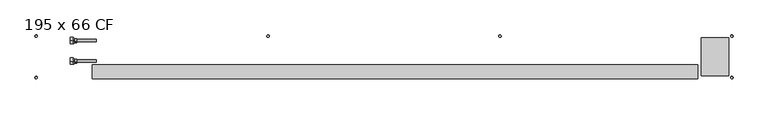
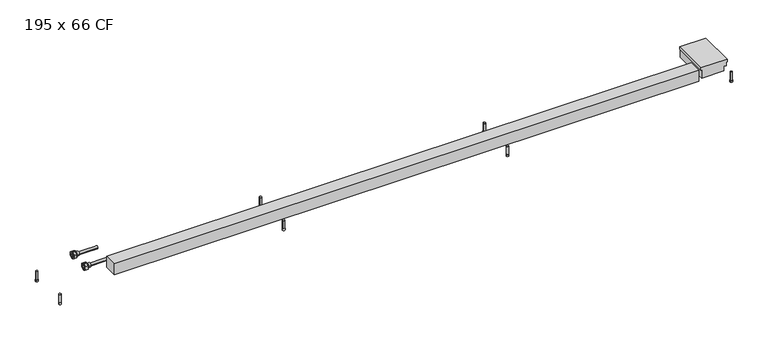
"""IFC4 building model written with IfcOpenShell, lengths in millimetres: proxy geometry, Mohlenhof_Внутрипольный конвектор_QSKM CF : 195 x 66 CF."""

import ifcopenshell
import ifcopenshell.guid

model = None  # the IFC model being written
_history = None  # IfcOwnerHistory: only IFC2X3 demands one
_inside = {}  # id of a spatial element -> (the spatial element, [elements in it])
_under = {}  # id of a project, library or spatial element -> (it, [spatial elements below it])
_declared = {}  # id of a project -> (the project, [libraries it declares])
_typed = {}  # id of a type object -> (the type object, [elements of that type])
_made_of = {}  # id of a material, layer set ... -> (it, [elements and type objects made of it])


def new_model(schema):
    """Start an empty IFC model of exactly this schema.

    Asked for "IFC4X3", IfcOpenShell would pick the latest addendum, in which some entities
    have other attributes; the version numbers below select the first issue.
    IFC2X3 requires an IfcOwnerHistory on every rooted entity: one is made here for all.
    """
    global model, _history
    if schema == "IFC4X3":
        model = ifcopenshell.file(schema_version=(4, 3, 0, 0))
    else:
        model = ifcopenshell.file(schema=schema)
    _inside.clear()
    _under.clear()
    _declared.clear()
    _typed.clear()
    _made_of.clear()
    _history = None
    if model.schema == "IFC2X3":
        org = make("IfcOrganization", Name="unknown")
        user = make(
            "IfcPersonAndOrganization",
            ThePerson=make("IfcPerson", FamilyName="unknown"),
            TheOrganization=org,
        )
        app = make(
            "IfcApplication",
            ApplicationDeveloper=org,
            Version="unknown",
            ApplicationFullName="unknown",
            ApplicationIdentifier="unknown",
        )
        _history = make(
            "IfcOwnerHistory",
            OwningUser=user,
            OwningApplication=app,
            ChangeAction="ADDED",
            CreationDate=0,
        )
    return model


def make(cls, **values):
    """One entity of the class cls with the attributes given. An attribute that is None is left unset."""
    return model.create_entity(
        cls, **{name: value for name, value in values.items() if value is not None}
    )


def rooted(cls, **values):
    """An entity with a GlobalId (a new one), such as an element, a storey or a relation."""
    return make(cls, GlobalId=ifcopenshell.guid.new(), OwnerHistory=_history, **values)


def si_unit(unit_type, name, prefix=None):
    """IfcSIUnit, for example si_unit("LENGTHUNIT", "METRE", prefix="MILLI")."""
    return make("IfcSIUnit", UnitType=unit_type, Prefix=prefix, Name=name)


def assignment(units):
    """IfcUnitAssignment: the units of a project."""
    return None if units is None else make("IfcUnitAssignment", Units=units)


def point(xyz):
    """IfcCartesianPoint."""
    return None if xyz is None else make("IfcCartesianPoint", Coordinates=xyz)


def direction(xyz):
    """IfcDirection."""
    return None if xyz is None else make("IfcDirection", DirectionRatios=xyz)


def frame(location, z_axis=None, x_axis=None):
    """IfcAxis2Placement3D, a coordinate frame: its origin and axes. An axis left out is left unset."""
    return make(
        "IfcAxis2Placement3D",
        Location=point(location),
        Axis=direction(z_axis),
        RefDirection=direction(x_axis),
    )


def frame_2d(location, x_axis=None):
    """IfcAxis2Placement2D, a coordinate frame in the plane: its origin and x axis."""
    return make(
        "IfcAxis2Placement2D", Location=point(location), RefDirection=direction(x_axis)
    )


def origin():
    """The frame at (0, 0, 0) with its axes left unset."""
    return frame((0.0, 0.0, 0.0))


def place(relative_to, where):
    """IfcLocalPlacement: puts the frame where relative to a parent placement (None: the world)."""
    return make(
        "IfcLocalPlacement", PlacementRelTo=relative_to, RelativePlacement=where
    )


def context(
    kind, dimensions, precision=None, world=None, true_north=None, identifier=None
):
    """IfcGeometricRepresentationContext, for example the 3D "Model" context."""
    return make(
        "IfcGeometricRepresentationContext",
        ContextIdentifier=identifier,
        ContextType=kind,
        CoordinateSpaceDimension=dimensions,
        Precision=precision,
        WorldCoordinateSystem=world,
        TrueNorth=true_north,
    )


def project(units=None, contexts=None):
    """IfcProject with its units and contexts."""
    return rooted(
        "IfcProject",
        Name="project",
        RepresentationContexts=contexts,
        UnitsInContext=assignment(units),
    )


def spatial(cls, under=None, at=None, **own):
    """A site, building, storey or space (cls), placed at a placement, below another one or the project."""
    s = rooted(cls, ObjectPlacement=at, **own)
    if under is not None:
        _under.setdefault(under.id(), (under, []))[1].append(s)
    return s


def polyline(points):
    """IfcPolyline through the points."""
    return make("IfcPolyline", Points=[point(p) for p in points])


def circle_curve(where, radius):
    """IfcCircle in the frame where."""
    return make("IfcCircle", Position=where, Radius=radius)


def trimmed(basis, trim1, trim2, sense, master):
    """IfcTrimmedCurve: the piece of a basis curve between two trims."""
    return make(
        "IfcTrimmedCurve",
        BasisCurve=basis,
        Trim1=trim1,
        Trim2=trim2,
        SenseAgreement=sense,
        MasterRepresentation=master,
    )


def segment(curve, same_sense, transition):
    """IfcCompositeCurveSegment."""
    return make(
        "IfcCompositeCurveSegment",
        Transition=transition,
        SameSense=same_sense,
        ParentCurve=curve,
    )


def composite_curve(segments, self_intersect=None):
    """IfcCompositeCurve: segments joined end to end."""
    return make("IfcCompositeCurve", Segments=segments, SelfIntersect=self_intersect)


def outline(outer, holes=None, kind="AREA"):
    """IfcArbitraryClosedProfileDef: a profile drawn as a closed curve; with holes, ...WithVoids."""
    if holes is None:
        return make("IfcArbitraryClosedProfileDef", ProfileType=kind, OuterCurve=outer)
    return make(
        "IfcArbitraryProfileDefWithVoids",
        ProfileType=kind,
        OuterCurve=outer,
        InnerCurves=holes,
    )


def extrude(swept, where, along, depth):
    """IfcExtrudedAreaSolid: the profile swept, set in the frame where, extruded along a direction by depth."""
    return make(
        "IfcExtrudedAreaSolid",
        SweptArea=swept,
        Position=where,
        ExtrudedDirection=direction(along),
        Depth=depth,
    )


def shape(context_of_items, identifier, shape_type, items):
    """IfcShapeRepresentation: the items that make up one representation, for example the "Body"."""
    return make(
        "IfcShapeRepresentation",
        ContextOfItems=context_of_items,
        RepresentationIdentifier=identifier,
        RepresentationType=shape_type,
        Items=items,
    )


def source(mapping_origin, context_of_items, identifier, shape_type, items):
    """IfcRepresentationMap: a shape defined once, which mapped items show again and again."""
    return make(
        "IfcRepresentationMap",
        MappingOrigin=mapping_origin,
        MappedRepresentation=shape(context_of_items, identifier, shape_type, items),
    )


def transform(
    local_origin,
    x_axis=None,
    y_axis=None,
    z_axis=None,
    scale=None,
    scale2=None,
    scale3=None,
    uniform=True,
):
    """IfcCartesianTransformationOperator3D, or its non-uniform kind. x_axis, y_axis, z_axis: its Axis1, 2, 3."""
    if uniform:
        return make(
            "IfcCartesianTransformationOperator3D",
            Axis1=direction(x_axis),
            Axis2=direction(y_axis),
            LocalOrigin=point(local_origin),
            Scale=scale,
            Axis3=direction(z_axis),
        )
    return make(
        "IfcCartesianTransformationOperator3DnonUniform",
        Axis1=direction(x_axis),
        Axis2=direction(y_axis),
        LocalOrigin=point(local_origin),
        Scale=scale,
        Axis3=direction(z_axis),
        Scale2=scale2,
        Scale3=scale3,
    )


def mapped(mapping_source, mapping_target):
    """IfcMappedItem: shows the shape of a source again, moved by a transform."""
    return make(
        "IfcMappedItem", MappingSource=mapping_source, MappingTarget=mapping_target
    )


def made_of(thing, what):
    """Note that an element or type object is made of a material, layer set ...; save() writes the relation."""
    if what is not None:
        _made_of.setdefault(what.id(), (what, []))[1].append(thing)
    return thing


def element(
    cls,
    number,
    at=None,
    inside=None,
    cuts=None,
    type_object=None,
    material=None,
    context=None,
    identifier="Body",
    shape_type=None,
    held_by="IfcProductDefinitionShape",
    body=None,
    shapes=None,
    **own,
):
    """One element of the class cls, such as IfcWall. Its Tag is "e" and its number.

    at: its placement. inside: the storey or other place that contains it. cuts: it is an
    opening in that element (IfcRelVoidsElement). A single representation is given by context,
    identifier, shape_type and body (its items); several are given by shapes. held_by: the class
    of the entity that holds the representations. save() writes the other relations.
    """
    e = rooted(cls, Tag="e%d" % number, ObjectPlacement=at, **own)
    if body is not None:
        shapes = [shape(context, identifier, shape_type, body)]
    if shapes is not None:
        e.Representation = make(held_by, Representations=shapes)
    if inside is not None:
        _inside.setdefault(inside.id(), (inside, []))[1].append(e)
    if cuts is not None:
        rooted(
            "IfcRelVoidsElement", RelatingBuildingElement=cuts, RelatedOpeningElement=e
        )
    if type_object is not None:
        _typed.setdefault(type_object.id(), (type_object, []))[1].append(e)
    return made_of(e, material)


def aggregate(whole, parts):
    """IfcRelAggregates: a whole, such as a stair, and the parts it consists of."""
    return rooted("IfcRelAggregates", RelatingObject=whole, RelatedObjects=parts)


def save(model, path):
    """Write the relations noted so far, then the file.

    IfcRelAggregates (storeys below a building ...), IfcRelContainedInSpatialStructure (elements
    in a storey), IfcRelDefinesByType, IfcRelAssociatesMaterial and IfcRelDeclares: one each for
    every whole, place, type object, material and project.
    """
    for whole, parts in _under.values():
        aggregate(whole, parts)
    for where, things in _inside.values():
        rooted(
            "IfcRelContainedInSpatialStructure",
            RelatedElements=things,
            RelatingStructure=where,
        )
    for kind, things in _typed.values():
        rooted("IfcRelDefinesByType", RelatedObjects=things, RelatingType=kind)
    for what, things in _made_of.values():
        rooted("IfcRelAssociatesMaterial", RelatedObjects=things, RelatingMaterial=what)
    for by, libraries in _declared.values():
        rooted("IfcRelDeclares", RelatingContext=by, RelatedDefinitions=libraries)
    model.write(path)


def plane_surface(at):
    """IfcPlane: the flat surface through the origin of the frame at, square to its z axis."""
    return make("IfcPlane", Position=at)


def cylinder_surface(at, radius):
    """IfcCylindricalSurface: all points at the distance radius from the z axis of the frame at."""
    return make("IfcCylindricalSurface", Position=at, Radius=radius)


def revolved_surface(curve, axis_point, axis_direction):
    """IfcSurfaceOfRevolution: the curve turned about the line through axis_point along axis_direction."""
    return make(
        "IfcSurfaceOfRevolution",
        SweptCurve=make("IfcArbitraryOpenProfileDef", ProfileType="CURVE", Curve=curve),
        AxisPosition=make("IfcAxis1Placement", Location=point(axis_point), Axis=direction(axis_direction)),
    )


def advanced_brep(points, edges, surfaces, faces):
    """IfcAdvancedBrep: a solid bounded by faces that lie on surfaces and meet in shared edges.

    An edge is (start, end): straight between two places in points (the first is 0);
    or (start, end, curve); or (start, end, curve, False) where it runs against its curve.
    A face is (place in surfaces, loops), or (place, loops, False) where it looks against
    its surface's normal. A loop lists edges by number (the first is 1), with a minus sign
    where the edge is run from its end to its start. The first loop is the outer one.
    """
    corners = [point(p) for p in points]
    vertices = [make("IfcVertexPoint", VertexGeometry=c) for c in corners]
    made = []
    for start, end, *more in edges:
        made.append(
            make(
                "IfcEdgeCurve",
                EdgeStart=vertices[start],
                EdgeEnd=vertices[end],
                EdgeGeometry=more[0] if more else make("IfcPolyline", Points=[corners[start], corners[end]]),
                SameSense=more[1] if len(more) > 1 else True,
            )
        )
    hull = []
    for where, loops, *sense in faces:
        bounds = []
        for j, loop in enumerate(loops):
            ring = [make("IfcOrientedEdge", EdgeElement=made[abs(k) - 1], Orientation=k > 0) for k in loop]
            bounds.append(
                make(
                    "IfcFaceOuterBound" if j == 0 else "IfcFaceBound",
                    Bound=make("IfcEdgeLoop", EdgeList=ring),
                    Orientation=True,
                )
            )
        hull.append(make("IfcAdvancedFace", Bounds=bounds, FaceSurface=surfaces[where], SameSense=sense[0] if sense else True))
    return make("IfcAdvancedBrep", Outer=make("IfcClosedShell", CfsFaces=hull))


def proxy_195_x_66_cf_dcdc219b(model_context):
    return source(origin(), model_context, "Body", "SolidModel", [
        extrude(outline(composite_curve([segment(trimmed(circle_curve(frame_2d((-425.0, -273.5)), 4.5), [point((-429.5, -273.5))], [point((-420.5, -273.5))], False, "CARTESIAN"), True, "CONTINUOUS"), segment(trimmed(circle_curve(frame_2d((-425.0, -273.5)), 4.5), [point((-420.5, -273.5))], [point((-429.5, -273.5))], False, "CARTESIAN"), True, "CONTINUOUS")], self_intersect=False)), frame((0.0, 0.0, -110.0), z_axis=(0.0, 0.0, 1.0), x_axis=(1.0, 0.0, 0.0)), (0.0, 0.0, 1.0), 7.0),
        extrude(outline(composite_curve([segment(trimmed(circle_curve(frame_2d((-425.0, -273.5)), 4.0), [point((-429.0, -273.5))], [point((-421.0, -273.5))], False, "CARTESIAN"), True, "CONTINUOUS"), segment(trimmed(circle_curve(frame_2d((-425.0, -273.5)), 4.0), [point((-421.0, -273.5))], [point((-429.0, -273.5))], False, "CARTESIAN"), True, "CONTINUOUS")], self_intersect=False)), frame((0.0, 0.0, -103.0), z_axis=(0.0, 0.0, 1.0), x_axis=(1.0, 0.0, 0.0)), (0.0, 0.0, 1.0), 32.5),
        extrude(outline(composite_curve([segment(trimmed(circle_curve(frame_2d((425.0, -273.5)), 4.5), [point((420.5, -273.5))], [point((429.5, -273.5))], False, "CARTESIAN"), True, "CONTINUOUS"), segment(trimmed(circle_curve(frame_2d((425.0, -273.5)), 4.5), [point((429.5, -273.5))], [point((420.5, -273.5))], False, "CARTESIAN"), True, "CONTINUOUS")], self_intersect=False)), frame((0.0, 0.0, -110.0), z_axis=(0.0, 0.0, 1.0), x_axis=(1.0, 0.0, 0.0)), (0.0, 0.0, 1.0), 7.0),
        extrude(outline(composite_curve([segment(trimmed(circle_curve(frame_2d((425.0, -273.5)), 4.0), [point((421.0, -273.5))], [point((429.0, -273.5))], False, "CARTESIAN"), True, "CONTINUOUS"), segment(trimmed(circle_curve(frame_2d((425.0, -273.5)), 4.0), [point((429.0, -273.5))], [point((421.0, -273.5))], False, "CARTESIAN"), True, "CONTINUOUS")], self_intersect=False)), frame((0.0, 0.0, -103.0), z_axis=(0.0, 0.0, 1.0), x_axis=(1.0, 0.0, 0.0)), (0.0, 0.0, 1.0), 32.5),
        extrude(outline(composite_curve([segment(trimmed(circle_curve(frame_2d((-425.0, -121.5)), 4.5), [point((-429.5, -121.5))], [point((-420.5, -121.5))], False, "CARTESIAN"), True, "CONTINUOUS"), segment(trimmed(circle_curve(frame_2d((-425.0, -121.5)), 4.5), [point((-420.5, -121.5))], [point((-429.5, -121.5))], False, "CARTESIAN"), True, "CONTINUOUS")], self_intersect=False)), frame((0.0, 0.0, -110.0), z_axis=(0.0, 0.0, 1.0), x_axis=(1.0, 0.0, 0.0)), (0.0, 0.0, 1.0), 7.0),
        extrude(outline(composite_curve([segment(trimmed(circle_curve(frame_2d((-425.0, -121.5)), 4.0), [point((-429.0, -121.5))], [point((-421.0, -121.5))], False, "CARTESIAN"), True, "CONTINUOUS"), segment(trimmed(circle_curve(frame_2d((-425.0, -121.5)), 4.0), [point((-421.0, -121.5))], [point((-429.0, -121.5))], False, "CARTESIAN"), True, "CONTINUOUS")], self_intersect=False)), frame((0.0, 0.0, -103.0), z_axis=(0.0, 0.0, 1.0), x_axis=(1.0, 0.0, 0.0)), (0.0, 0.0, 1.0), 32.5),
        extrude(outline(composite_curve([segment(trimmed(circle_curve(frame_2d((425.0, -121.5)), 4.5), [point((420.5, -121.5))], [point((429.5, -121.5))], False, "CARTESIAN"), True, "CONTINUOUS"), segment(trimmed(circle_curve(frame_2d((425.0, -121.5)), 4.5), [point((429.5, -121.5))], [point((420.5, -121.5))], False, "CARTESIAN"), True, "CONTINUOUS")], self_intersect=False)), frame((0.0, 0.0, -110.0), z_axis=(0.0, 0.0, 1.0), x_axis=(1.0, 0.0, 0.0)), (0.0, 0.0, 1.0), 7.0),
        extrude(outline(composite_curve([segment(trimmed(circle_curve(frame_2d((425.0, -121.5)), 4.0), [point((421.0, -121.5))], [point((429.0, -121.5))], False, "CARTESIAN"), True, "CONTINUOUS"), segment(trimmed(circle_curve(frame_2d((425.0, -121.5)), 4.0), [point((429.0, -121.5))], [point((421.0, -121.5))], False, "CARTESIAN"), True, "CONTINUOUS")], self_intersect=False)), frame((0.0, 0.0, -103.0), z_axis=(0.0, 0.0, 1.0), x_axis=(1.0, 0.0, 0.0)), (0.0, 0.0, 1.0), 32.5),
        advanced_brep(
        [(-1139.0, -213.0, -41.0), (-1139.0, -201.0, -41.0), (-1139.0, -225.0, -41.0), (-1126.5, -220.5, -41.0), (-1126.5, -205.5, -41.0), (-1126.5, -213.0, -41.0), (-1134.0, -220.5, -41.0), (-1134.0, -205.5, -41.0)],
        [
            (0, 1),
            (1, 2, circle_curve(frame((-1139.0, -213.0, -41.0), z_axis=(-1.0, 0.0, 0.0), x_axis=(0.0, 1.0, 0.0)), 12.0)),
            (2, 0),
            (2, 1, circle_curve(frame((-1139.0, -213.0, -41.0), z_axis=(-1.0, 0.0, 0.0), x_axis=(0.0, 1.0, 0.0)), 12.0)),
            (3, 4, circle_curve(frame((-1126.5, -213.0, -41.0), z_axis=(1.0, 0.0, 0.0), x_axis=(0.0, 1.0, 0.0)), 7.5)),
            (4, 5),
            (5, 3),
            (4, 3, circle_curve(frame((-1126.5, -213.0, -41.0), z_axis=(1.0, 0.0, 0.0), x_axis=(0.0, 1.0, 0.0)), 7.5)),
            (6, 7, circle_curve(frame((-1134.0, -213.0, -41.0), z_axis=(1.0, 0.0, 0.0), x_axis=(0.0, 1.0, 0.0)), 7.5)),
            (7, 4),
            (3, 6),
            (7, 6, circle_curve(frame((-1134.0, -213.0, -41.0), z_axis=(1.0, 0.0, 0.0), x_axis=(0.0, 1.0, 0.0)), 7.5)),
            (1, 7),
            (6, 2),
        ],
        [
            plane_surface(frame((-1139.0, -213.0, -41.0), z_axis=(-1.0, 0.0, 0.0), x_axis=(0.0, 1.0, 0.0))),
            plane_surface(frame((-1126.5, -213.0, -41.0), z_axis=(1.0, 0.0, 0.0), x_axis=(0.0, 1.0, 0.0))),
            cylinder_surface(frame((-1139.0, -213.0, -41.0), z_axis=(-1.0, 0.0, 0.0), x_axis=(0.0, 1.0, 0.0)), 7.5),
            revolved_surface(polyline([(-1134.0, -205.5, -41.0), (-1139.0, -201.0, -41.0)]), (-1139.0, -213.0, -41.0), (-1.0, 0.0, 0.0)),
        ],
        [
            (0, [[1, 2, 3]]),
            (0, [[-3, 4, -1]]),
            (1, [[5, 6, 7]]),
            (1, [[8, -7, -6]]),
            (2, [[9, 10, -5, 11]]),
            (2, [[12, -11, -8, -10]]),
            (3, [[-2, 13, -9, 14]]),
            (3, [[-4, -14, -12, -13]]),
        ],
    ),
        extrude(outline(polyline([(-213.0, -27.1435935), (-201.0, -34.0717968), (-201.0, -47.9282032), (-213.0, -54.8564065), (-225.0, -47.9282032), (-225.0, -34.0717968), (-213.0, -27.1435935)]), holes=[composite_curve([segment(trimmed(circle_curve(frame_2d((-213.0, -41.0)), 8.5), [point((-204.5, -41.0))], [point((-221.5, -41.0))], True, "CARTESIAN"), True, "CONTINUOUS"), segment(trimmed(circle_curve(frame_2d((-213.0, -41.0)), 8.5), [point((-221.5, -41.0))], [point((-204.5, -41.0))], True, "CARTESIAN"), True, "CONTINUOUS")], self_intersect=False)]), frame((-1150.0, 0.0, 0.0), z_axis=(1.0, 0.0, 0.0), x_axis=(0.0, 1.0, 0.0)), (0.0, 0.0, 1.0), 11.0),
        advanced_brep(
        [(-1139.0, -138.0, -41.0), (-1139.0, -126.0, -41.0), (-1139.0, -150.0, -41.0), (-1126.5, -145.5, -41.0), (-1126.5, -130.5, -41.0), (-1126.5, -138.0, -41.0), (-1134.0, -145.5, -41.0), (-1134.0, -130.5, -41.0)],
        [
            (0, 1),
            (1, 2, circle_curve(frame((-1139.0, -138.0, -41.0), z_axis=(-1.0, 0.0, 0.0), x_axis=(0.0, 1.0, 0.0)), 12.0)),
            (2, 0),
            (2, 1, circle_curve(frame((-1139.0, -138.0, -41.0), z_axis=(-1.0, 0.0, 0.0), x_axis=(0.0, 1.0, 0.0)), 12.0)),
            (3, 4, circle_curve(frame((-1126.5, -138.0, -41.0), z_axis=(1.0, 0.0, 0.0), x_axis=(0.0, 1.0, 0.0)), 7.5)),
            (4, 5),
            (5, 3),
            (4, 3, circle_curve(frame((-1126.5, -138.0, -41.0), z_axis=(1.0, 0.0, 0.0), x_axis=(0.0, 1.0, 0.0)), 7.5)),
            (6, 7, circle_curve(frame((-1134.0, -138.0, -41.0), z_axis=(1.0, 0.0, 0.0), x_axis=(0.0, 1.0, 0.0)), 7.5)),
            (7, 4),
            (3, 6),
            (7, 6, circle_curve(frame((-1134.0, -138.0, -41.0), z_axis=(1.0, 0.0, 0.0), x_axis=(0.0, 1.0, 0.0)), 7.5)),
            (1, 7),
            (6, 2),
        ],
        [
            plane_surface(frame((-1139.0, -138.0, -41.0), z_axis=(-1.0, 0.0, 0.0), x_axis=(0.0, 1.0, 0.0))),
            plane_surface(frame((-1126.5, -138.0, -41.0), z_axis=(1.0, 0.0, 0.0), x_axis=(0.0, 1.0, 0.0))),
            cylinder_surface(frame((-1139.0, -138.0, -41.0), z_axis=(-1.0, 0.0, 0.0), x_axis=(0.0, 1.0, 0.0)), 7.5),
            revolved_surface(polyline([(-1134.0, -130.5, -41.0), (-1139.0, -126.0, -41.0)]), (-1139.0, -138.0, -41.0), (-1.0, 0.0, 0.0)),
        ],
        [
            (0, [[1, 2, 3]]),
            (0, [[-3, 4, -1]]),
            (1, [[5, 6, 7]]),
            (1, [[8, -7, -6]]),
            (2, [[9, 10, -5, 11]]),
            (2, [[12, -11, -8, -10]]),
            (3, [[-2, 13, -9, 14]]),
            (3, [[-4, -14, -12, -13]]),
        ],
    ),
        extrude(outline(polyline([(-138.0, -27.1435935), (-126.0, -34.0717968), (-126.0, -47.9282032), (-138.0, -54.8564065), (-150.0, -47.9282032), (-150.0, -34.0717968), (-138.0, -27.1435935)]), holes=[composite_curve([segment(trimmed(circle_curve(frame_2d((-138.0, -41.0)), 8.5), [point((-129.5, -41.0))], [point((-146.5, -41.0))], True, "CARTESIAN"), True, "CONTINUOUS"), segment(trimmed(circle_curve(frame_2d((-138.0, -41.0)), 8.5), [point((-146.5, -41.0))], [point((-129.5, -41.0))], True, "CARTESIAN"), True, "CONTINUOUS")], self_intersect=False)]), frame((-1150.0, 0.0, 0.0), z_axis=(1.0, 0.0, 0.0), x_axis=(0.0, 1.0, 0.0)), (0.0, 0.0, 1.0), 11.0),
        extrude(outline(composite_curve([segment(trimmed(circle_curve(frame_2d((-1275.0, -273.5)), 4.5), [point((-1279.5, -273.5))], [point((-1270.5, -273.5))], False, "CARTESIAN"), True, "CONTINUOUS"), segment(trimmed(circle_curve(frame_2d((-1275.0, -273.5)), 4.5), [point((-1270.5, -273.5))], [point((-1279.5, -273.5))], False, "CARTESIAN"), True, "CONTINUOUS")], self_intersect=False)), frame((0.0, 0.0, -110.0), z_axis=(0.0, 0.0, 1.0), x_axis=(1.0, 0.0, 0.0)), (0.0, 0.0, 1.0), 7.0),
        extrude(outline(composite_curve([segment(trimmed(circle_curve(frame_2d((-1275.0, -273.5)), 4.0), [point((-1279.0, -273.5))], [point((-1271.0, -273.5))], False, "CARTESIAN"), True, "CONTINUOUS"), segment(trimmed(circle_curve(frame_2d((-1275.0, -273.5)), 4.0), [point((-1271.0, -273.5))], [point((-1279.0, -273.5))], False, "CARTESIAN"), True, "CONTINUOUS")], self_intersect=False)), frame((0.0, 0.0, -103.0), z_axis=(0.0, 0.0, 1.0), x_axis=(1.0, 0.0, 0.0)), (0.0, 0.0, 1.0), 32.5),
        extrude(outline(composite_curve([segment(trimmed(circle_curve(frame_2d((-1275.0, -121.5)), 4.5), [point((-1279.5, -121.5))], [point((-1270.5, -121.5))], False, "CARTESIAN"), True, "CONTINUOUS"), segment(trimmed(circle_curve(frame_2d((-1275.0, -121.5)), 4.5), [point((-1270.5, -121.5))], [point((-1279.5, -121.5))], False, "CARTESIAN"), True, "CONTINUOUS")], self_intersect=False)), frame((0.0, 0.0, -110.0), z_axis=(0.0, 0.0, 1.0), x_axis=(1.0, 0.0, 0.0)), (0.0, 0.0, 1.0), 7.0),
        extrude(outline(composite_curve([segment(trimmed(circle_curve(frame_2d((-1275.0, -121.5)), 4.0), [point((-1279.0, -121.5))], [point((-1271.0, -121.5))], False, "CARTESIAN"), True, "CONTINUOUS"), segment(trimmed(circle_curve(frame_2d((-1275.0, -121.5)), 4.0), [point((-1271.0, -121.5))], [point((-1279.0, -121.5))], False, "CARTESIAN"), True, "CONTINUOUS")], self_intersect=False)), frame((0.0, 0.0, -103.0), z_axis=(0.0, 0.0, 1.0), x_axis=(1.0, 0.0, 0.0)), (0.0, 0.0, 1.0), 32.5),
        extrude(outline(composite_curve([segment(trimmed(circle_curve(frame_2d((1275.0, -273.5)), 4.5), [point((1270.5, -273.5))], [point((1279.5, -273.5))], False, "CARTESIAN"), True, "CONTINUOUS"), segment(trimmed(circle_curve(frame_2d((1275.0, -273.5)), 4.5), [point((1279.5, -273.5))], [point((1270.5, -273.5))], False, "CARTESIAN"), True, "CONTINUOUS")], self_intersect=False)), frame((0.0, 0.0, -110.0), z_axis=(0.0, 0.0, 1.0), x_axis=(1.0, 0.0, 0.0)), (0.0, 0.0, 1.0), 7.0),
        extrude(outline(composite_curve([segment(trimmed(circle_curve(frame_2d((1275.0, -273.5)), 4.0), [point((1271.0, -273.5))], [point((1279.0, -273.5))], False, "CARTESIAN"), True, "CONTINUOUS"), segment(trimmed(circle_curve(frame_2d((1275.0, -273.5)), 4.0), [point((1279.0, -273.5))], [point((1271.0, -273.5))], False, "CARTESIAN"), True, "CONTINUOUS")], self_intersect=False)), frame((0.0, 0.0, -103.0), z_axis=(0.0, 0.0, 1.0), x_axis=(1.0, 0.0, 0.0)), (0.0, 0.0, 1.0), 32.5),
        extrude(outline(composite_curve([segment(trimmed(circle_curve(frame_2d((1275.0, -121.5)), 4.5), [point((1270.5, -121.5))], [point((1279.5, -121.5))], False, "CARTESIAN"), True, "CONTINUOUS"), segment(trimmed(circle_curve(frame_2d((1275.0, -121.5)), 4.5), [point((1279.5, -121.5))], [point((1270.5, -121.5))], False, "CARTESIAN"), True, "CONTINUOUS")], self_intersect=False)), frame((0.0, 0.0, -110.0), z_axis=(0.0, 0.0, 1.0), x_axis=(1.0, 0.0, 0.0)), (0.0, 0.0, 1.0), 7.0),
        extrude(outline(composite_curve([segment(trimmed(circle_curve(frame_2d((1275.0, -121.5)), 4.0), [point((1271.0, -121.5))], [point((1279.0, -121.5))], False, "CARTESIAN"), True, "CONTINUOUS"), segment(trimmed(circle_curve(frame_2d((1275.0, -121.5)), 4.0), [point((1279.0, -121.5))], [point((1271.0, -121.5))], False, "CARTESIAN"), True, "CONTINUOUS")], self_intersect=False)), frame((0.0, 0.0, -103.0), z_axis=(0.0, 0.0, 1.0), x_axis=(1.0, 0.0, 0.0)), (0.0, 0.0, 1.0), 32.5),
        extrude(outline(polyline([(-62.5, 1251.0), (-44.5, 1251.0), (-44.5, 1260.0), (-29.5, 1260.0), (-29.5, 1263.0), (-19.5, 1263.0), (-19.5, 1163.0), (-29.5, 1163.0), (-29.5, 1166.0), (-62.5, 1166.0), (-62.5, 1251.0)])), frame((0.0, -267.5, 0.0), z_axis=(0.0, 1.0, 0.0), x_axis=(0.0, 0.0, 1.0)), (0.0, 0.0, 1.0), 140.0),
        extrude(outline(polyline([(1150.0, -225.87), (1150.0, -277.18), (-1070.0, -277.18), (-1070.0, -225.87), (1150.0, -225.87)])), frame((0.0, 0.0, -62.5), z_axis=(0.0, 0.0, 1.0), x_axis=(1.0, 0.0, 0.0)), (0.0, 0.0, 1.0), 43.62),
        extrude(outline(composite_curve([segment(trimmed(circle_curve(frame_2d((-213.0, -41.0)), 5.0), [point((-218.0, -41.0))], [point((-208.0, -41.0))], False, "CARTESIAN"), True, "CONTINUOUS"), segment(trimmed(circle_curve(frame_2d((-213.0, -41.0)), 5.0), [point((-208.0, -41.0))], [point((-218.0, -41.0))], False, "CARTESIAN"), True, "CONTINUOUS")], self_intersect=False)), frame((-1150.0, 0.0, 0.0), z_axis=(1.0, 0.0, 0.0), x_axis=(0.0, 1.0, 0.0)), (0.0, 0.0, 1.0), 95.0),
        extrude(outline(composite_curve([segment(trimmed(circle_curve(frame_2d((-138.0, -41.0)), 5.0), [point((-143.0, -41.0))], [point((-133.0, -41.0))], False, "CARTESIAN"), True, "CONTINUOUS"), segment(trimmed(circle_curve(frame_2d((-138.0, -41.0)), 5.0), [point((-133.0, -41.0))], [point((-143.0, -41.0))], False, "CARTESIAN"), True, "CONTINUOUS")], self_intersect=False)), frame((-1150.0, 0.0, 0.0), z_axis=(1.0, 0.0, 0.0), x_axis=(0.0, 1.0, 0.0)), (0.0, 0.0, 1.0), 95.0),
    ])


if __name__ == "__main__":
    model = new_model("IFC4")
    model_context = context("Model", 3, world=origin())
    ifc_project = project(units=[si_unit("LENGTHUNIT", "METRE", prefix="MILLI")], contexts=[model_context])
    site = spatial("IfcSite", under=ifc_project)
    building = spatial("IfcBuilding", under=site)
    placement = place(None, origin())
    proxy_195_x_66_cf_shape = proxy_195_x_66_cf_dcdc219b(model_context)
    element("IfcBuildingElementProxy", 1, Name="Mohlenhof_Внутрипольный конвектор_QSKM CF : 195 x 66 CF", ObjectType="Mohlenhof_Внутрипольный конвектор_QSKM CF : 195 x 66 CF", at=placement, inside=building, context=model_context, shape_type="MappedRepresentation", body=[
        mapped(proxy_195_x_66_cf_shape, transform((0.0, 0.0, 0.0), x_axis=(1.0, 0.0, 0.0), y_axis=(0.0, 1.0, 0.0), z_axis=(0.0, 0.0, 1.0))),
    ])
    save(model, "model.ifc")
